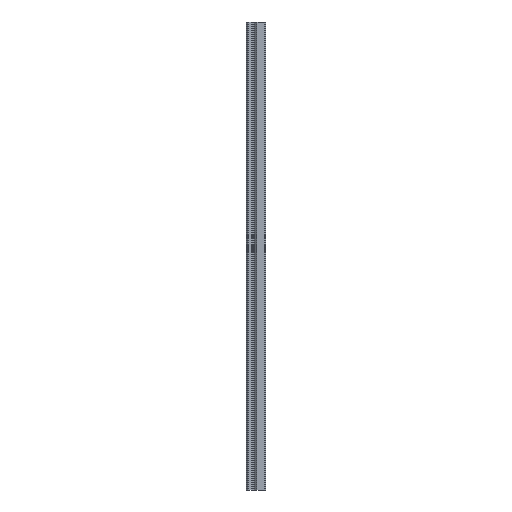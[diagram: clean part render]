
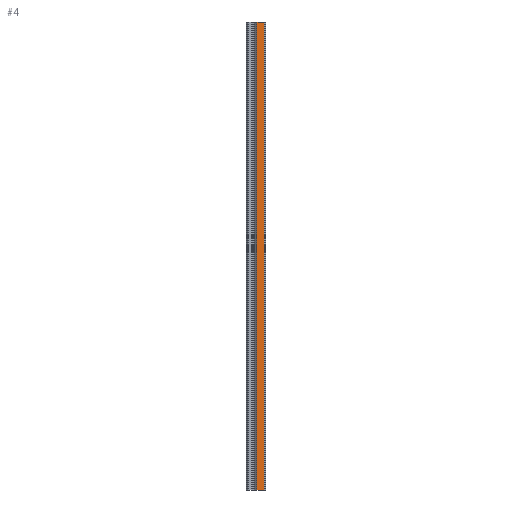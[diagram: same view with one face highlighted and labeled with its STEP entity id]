
A CAD part, left-side view. The second image highlights one B-rep face of the part: STEP entity #4.
In plain terms, the highlighted planar face has unit normal (-1, 0, 0).
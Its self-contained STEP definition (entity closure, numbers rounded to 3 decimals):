
#4 = ADVANCED_FACE ( 'NONE', ( #556 ), #1175, .F. ) ;
#29 = LINE ( 'NONE', #440, #1295 ) ;
#101 = DIRECTION ( 'NONE',  ( 0., -1., 0. ) ) ;
#119 = CARTESIAN_POINT ( 'NONE',  ( -10., 16.3, 200. ) ) ;
#137 = EDGE_CURVE ( 'NONE', #332, #685, #1371, .T. ) ;
#153 = CARTESIAN_POINT ( 'NONE',  ( -10., 7.3, -200. ) ) ;
#237 = VERTEX_POINT ( 'NONE', #153 ) ;
#259 = CARTESIAN_POINT ( 'NONE',  ( -10., 16.3, -200. ) ) ;
#284 = EDGE_CURVE ( 'NONE', #237, #332, #1662, .T. ) ;
#313 = ORIENTED_EDGE ( 'NONE', *, *, #284, .F. ) ;
#332 = VERTEX_POINT ( 'NONE', #967 ) ;
#387 = ORIENTED_EDGE ( 'NONE', *, *, #860, .T. ) ;
#394 = DIRECTION ( 'NONE',  ( 0., 1., 0. ) ) ;
#403 = VECTOR ( 'NONE', #1843, 1000. ) ;
#440 = CARTESIAN_POINT ( 'NONE',  ( -10., 1., 200. ) ) ;
#510 = CARTESIAN_POINT ( 'NONE',  ( -10., 1., 200. ) ) ;
#530 = CARTESIAN_POINT ( 'NONE',  ( -10., 16.3, 200. ) ) ;
#556 = FACE_OUTER_BOUND ( 'NONE', #1673, .T. ) ;
#578 = DIRECTION ( 'NONE',  ( 0., 0., 1. ) ) ;
#665 = CARTESIAN_POINT ( 'NONE',  ( -10., 1., -200. ) ) ;
#685 = VERTEX_POINT ( 'NONE', #510 ) ;
#860 = EDGE_CURVE ( 'NONE', #237, #1123, #1340, .T. ) ;
#967 = CARTESIAN_POINT ( 'NONE',  ( -10., 7.3, 200. ) ) ;
#972 = VECTOR ( 'NONE', #1495, 1000. ) ;
#1123 = VERTEX_POINT ( 'NONE', #665 ) ;
#1141 = VECTOR ( 'NONE', #101, 1000. ) ;
#1175 = PLANE ( 'NONE',  #1305 ) ;
#1179 = DIRECTION ( 'NONE',  ( 1., 0., 0. ) ) ;
#1240 = CARTESIAN_POINT ( 'NONE',  ( -10., 7.3, -200. ) ) ;
#1295 = VECTOR ( 'NONE', #578, 1000. ) ;
#1305 = AXIS2_PLACEMENT_3D ( 'NONE', #530, #1179, #394 ) ;
#1340 = LINE ( 'NONE', #259, #1141 ) ;
#1369 = EDGE_CURVE ( 'NONE', #1123, #685, #29, .T. ) ;
#1371 = LINE ( 'NONE', #119, #972 ) ;
#1495 = DIRECTION ( 'NONE',  ( 0., -1., 0. ) ) ;
#1624 = ORIENTED_EDGE ( 'NONE', *, *, #1369, .T. ) ;
#1662 = LINE ( 'NONE', #1240, #403 ) ;
#1673 = EDGE_LOOP ( 'NONE', ( #387, #1624, #1974, #313 ) ) ;
#1843 = DIRECTION ( 'NONE',  ( 0., 0., 1. ) ) ;
#1974 = ORIENTED_EDGE ( 'NONE', *, *, #137, .F. ) ;
